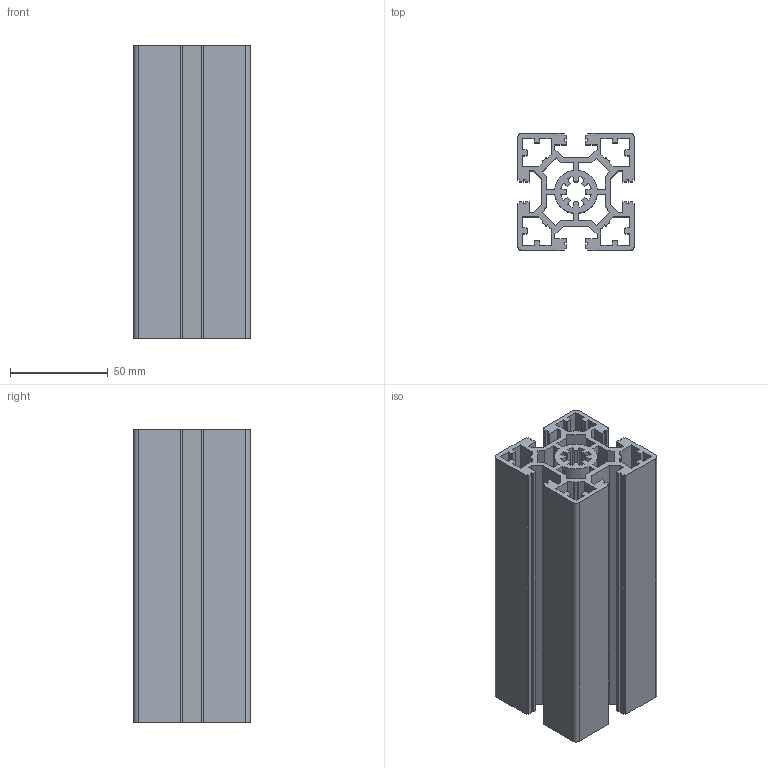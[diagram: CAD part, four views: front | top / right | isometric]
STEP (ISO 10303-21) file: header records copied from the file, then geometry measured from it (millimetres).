
FILE_DESCRIPTION((''),'2;1');
FILE_NAME('E:\catalogue and flyer\Profile catalogue 2015\profile-step file,31MAr16\PS6060-10.stp','2016-03-31T14:19:56',('h029'),(''),'Autodesk Inventor 11','Autodesk Inventor 11','');
FILE_SCHEMA(('AUTOMOTIVE_DESIGN { 1 0 10303 214 1 1 1 1 }'));
Length unit declared in the file: millimetre
Products named in the file (1): ps6060-10
Bounding box: 60 x 60 x 150 mm (x, y, z)
Volume: 222028.7 mm3; surface area: 150188.6 mm2
Topology: 1 solids, 1 shells, 254 faces, 756 edges, 504 vertices
Faces by surface type: plane 194, cylinder 60
Entity records: 8519 total; most frequent: CARTESIAN_POINT 1515, ORIENTED_EDGE 1512, DIRECTION 1386, EDGE_CURVE 756, VECTOR 636, LINE 636, VERTEX_POINT 504, AXIS2_PLACEMENT_3D 375
